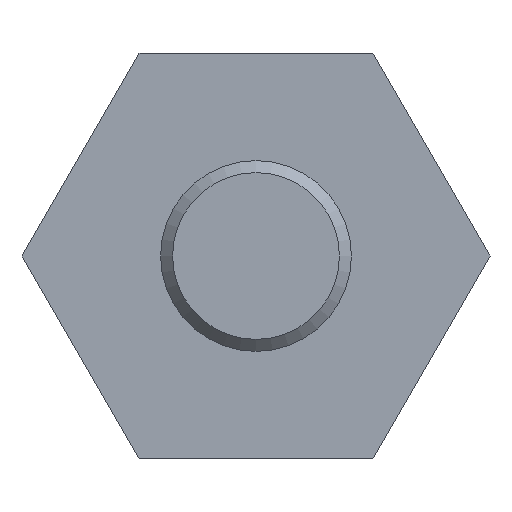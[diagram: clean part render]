
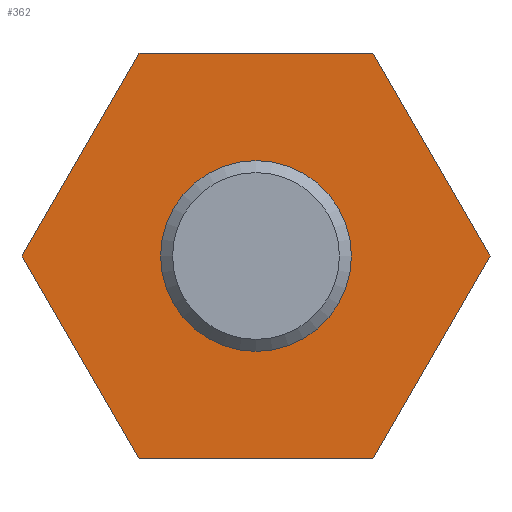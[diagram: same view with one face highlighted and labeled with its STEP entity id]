
A CAD part, front view. The second image highlights one B-rep face of the part: STEP entity #362.
In plain terms, the highlighted planar face has unit normal (0, -1, 0).
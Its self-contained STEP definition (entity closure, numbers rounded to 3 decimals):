
#16 = LINE ( 'NONE', #132, #144 ) ;
#20 = DIRECTION ( 'NONE',  ( 0.5, 0., -0.866 ) ) ;
#24 = ORIENTED_EDGE ( 'NONE', *, *, #270, .T. ) ;
#32 = VERTEX_POINT ( 'NONE', #294 ) ;
#34 = VERTEX_POINT ( 'NONE', #205 ) ;
#37 = LINE ( 'NONE', #356, #350 ) ;
#40 = CARTESIAN_POINT ( 'NONE',  ( -4.907, 0., -8.5 ) ) ;
#45 = DIRECTION ( 'NONE',  ( -0.5, 0., -0.866 ) ) ;
#54 = VERTEX_POINT ( 'NONE', #238 ) ;
#73 = EDGE_CURVE ( 'NONE', #54, #175, #37, .T. ) ;
#85 = VECTOR ( 'NONE', #136, 1000. ) ;
#87 = VERTEX_POINT ( 'NONE', #40 ) ;
#90 = FACE_BOUND ( 'NONE', #260, .T. ) ;
#94 = VECTOR ( 'NONE', #130, 1000. ) ;
#107 = CARTESIAN_POINT ( 'NONE',  ( -4.907, 0., 8.5 ) ) ;
#108 = CARTESIAN_POINT ( 'NONE',  ( 0., 0., -8.5 ) ) ;
#117 = VERTEX_POINT ( 'NONE', #107 ) ;
#124 = ORIENTED_EDGE ( 'NONE', *, *, #224, .T. ) ;
#129 = EDGE_CURVE ( 'NONE', #117, #235, #187, .T. ) ;
#130 = DIRECTION ( 'NONE',  ( -0.5, 0., 0.866 ) ) ;
#132 = CARTESIAN_POINT ( 'NONE',  ( 0., 0., 8.5 ) ) ;
#134 = DIRECTION ( 'NONE',  ( -1., 0., 0. ) ) ;
#136 = DIRECTION ( 'NONE',  ( 1., 0., 0. ) ) ;
#142 = DIRECTION ( 'NONE',  ( 0., 1., 0. ) ) ;
#144 = VECTOR ( 'NONE', #134, 1000. ) ;
#145 = CARTESIAN_POINT ( 'NONE',  ( 0., 0., 0. ) ) ;
#148 = DIRECTION ( 'NONE',  ( 0.5, 0., 0.866 ) ) ;
#156 = CIRCLE ( 'NONE', #335, 4. ) ;
#159 = EDGE_CURVE ( 'NONE', #235, #87, #252, .T. ) ;
#163 = EDGE_CURVE ( 'NONE', #87, #54, #365, .T. ) ;
#173 = ORIENTED_EDGE ( 'NONE', *, *, #129, .T. ) ;
#175 = VERTEX_POINT ( 'NONE', #250 ) ;
#187 = LINE ( 'NONE', #253, #233 ) ;
#193 = DIRECTION ( 'NONE',  ( 0., 1., 0. ) ) ;
#194 = EDGE_CURVE ( 'NONE', #175, #32, #367, .T. ) ;
#196 = ORIENTED_EDGE ( 'NONE', *, *, #159, .T. ) ;
#203 = DIRECTION ( 'NONE',  ( -1., 0., 0. ) ) ;
#205 = CARTESIAN_POINT ( 'NONE',  ( -4., 0., 0. ) ) ;
#221 = CARTESIAN_POINT ( 'NONE',  ( -7.361, 0., -4.25 ) ) ;
#223 = CARTESIAN_POINT ( 'NONE',  ( 7.361, 0., 4.25 ) ) ;
#224 = EDGE_CURVE ( 'NONE', #32, #117, #16, .T. ) ;
#228 = PLANE ( 'NONE',  #283 ) ;
#233 = VECTOR ( 'NONE', #45, 1000. ) ;
#234 = FACE_OUTER_BOUND ( 'NONE', #315, .T. ) ;
#235 = VERTEX_POINT ( 'NONE', #307 ) ;
#238 = CARTESIAN_POINT ( 'NONE',  ( 4.907, 0., -8.5 ) ) ;
#250 = CARTESIAN_POINT ( 'NONE',  ( 9.815, 0., 0. ) ) ;
#252 = LINE ( 'NONE', #221, #308 ) ;
#253 = CARTESIAN_POINT ( 'NONE',  ( -7.361, 0., 4.25 ) ) ;
#260 = EDGE_LOOP ( 'NONE', ( #24 ) ) ;
#265 = DIRECTION ( 'NONE',  ( -1., 0., 0. ) ) ;
#270 = EDGE_CURVE ( 'NONE', #34, #34, #156, .T. ) ;
#283 = AXIS2_PLACEMENT_3D ( 'NONE', #345, #193, #203 ) ;
#287 = ORIENTED_EDGE ( 'NONE', *, *, #73, .T. ) ;
#294 = CARTESIAN_POINT ( 'NONE',  ( 4.907, 0., 8.5 ) ) ;
#307 = CARTESIAN_POINT ( 'NONE',  ( -9.815, 0., 0. ) ) ;
#308 = VECTOR ( 'NONE', #20, 1000. ) ;
#315 = EDGE_LOOP ( 'NONE', ( #369, #287, #348, #124, #173, #196 ) ) ;
#335 = AXIS2_PLACEMENT_3D ( 'NONE', #145, #142, #265 ) ;
#345 = CARTESIAN_POINT ( 'NONE',  ( 4., 0., 0. ) ) ;
#348 = ORIENTED_EDGE ( 'NONE', *, *, #194, .T. ) ;
#350 = VECTOR ( 'NONE', #148, 1000. ) ;
#356 = CARTESIAN_POINT ( 'NONE',  ( 7.361, 0., -4.25 ) ) ;
#362 = ADVANCED_FACE ( 'NONE', ( #90, #234 ), #228, .F. ) ;
#365 = LINE ( 'NONE', #108, #85 ) ;
#367 = LINE ( 'NONE', #223, #94 ) ;
#369 = ORIENTED_EDGE ( 'NONE', *, *, #163, .T. ) ;
